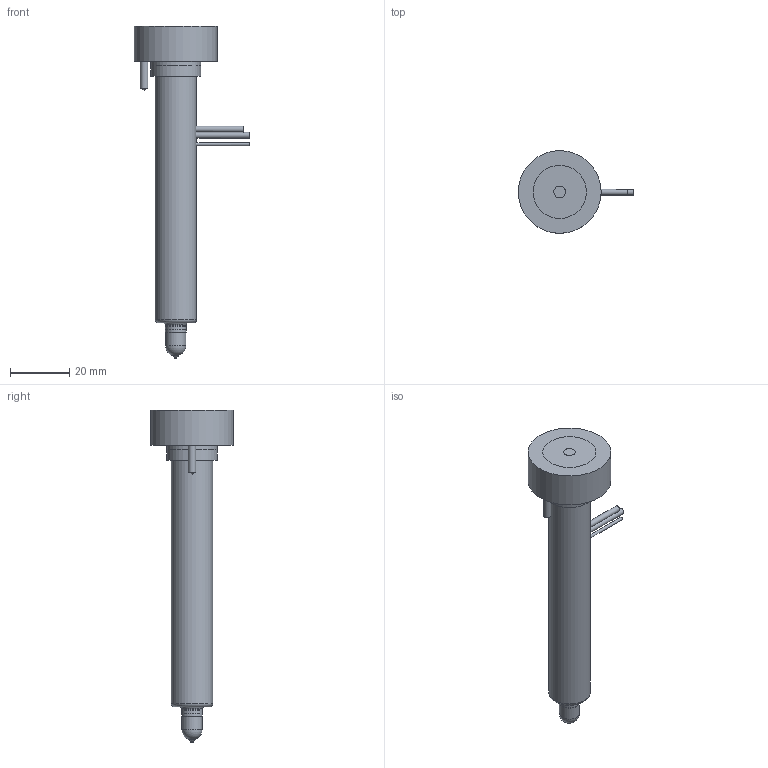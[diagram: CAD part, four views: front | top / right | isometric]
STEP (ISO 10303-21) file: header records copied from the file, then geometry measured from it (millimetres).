
FILE_DESCRIPTION(/* description */ (''),/* implementation_level */ '2;1');
FILE_NAME(/* name */ 'MJTT13095-5_a',/* time_stamp */ '2008-11-14T17:00:10+13:00',/* author */ (''),/* organization */ (''),/* preprocessor_version */ 'ST-DEVELOPER v9',/* originating_system */ 'UGS - NX 4.0',/* authorisation */ '');
FILE_SCHEMA (('CONFIG_CONTROL_DESIGN'));
Length unit declared in the file: millimetre
Products named in the file (1): Matt5FEBawom
Bounding box: 39 x 28 x 112.36 mm (x, y, z)
Volume: 37914.2 mm3; surface area: 12231 mm2
Topology: 2 solids, 2 shells, 90 faces, 207 edges, 133 vertices
Faces by surface type: plane 36, cylinder 33, cone 11, torus 9, sphere 1
Full cylindrical faces by diameter (mm): 0.7 x1, 1 x1, 2 x2, 2.5 x2, 3.6 x1, 4 x1, 5.2 x1, 6.61 x1, 6.8 x1, 7.01 x2, 8 x1, 13 x1, 13.002 x1, 14 x1, 17 x2, 28 x1
Entity records: 2560 total; most frequent: CARTESIAN_POINT 637, DIRECTION 402, ORIENTED_EDGE 308, AXIS2_PLACEMENT_3D 176, EDGE_CURVE 154, EDGE_LOOP 142, VERTEX_POINT 121, ADVANCED_FACE 90
